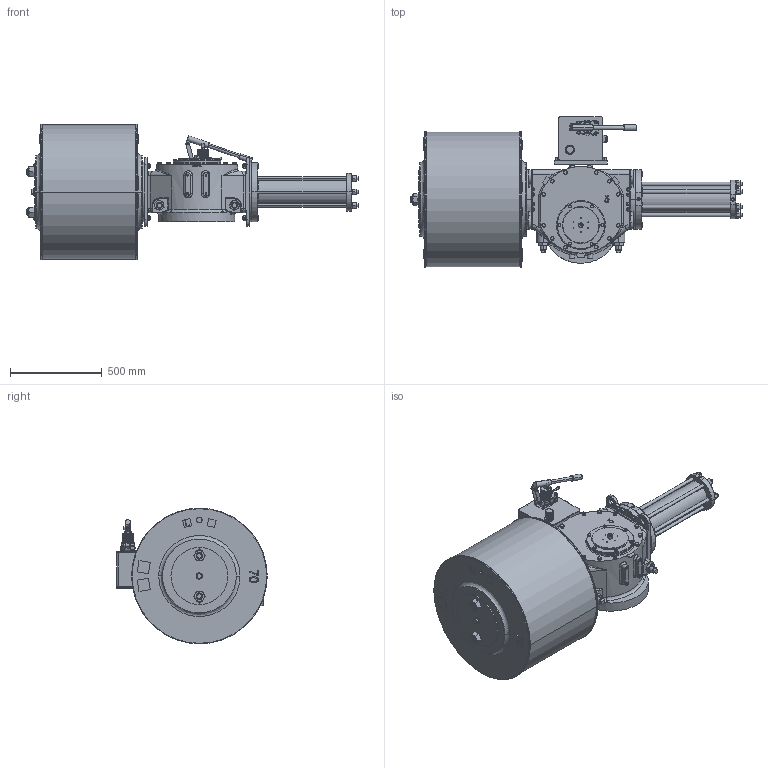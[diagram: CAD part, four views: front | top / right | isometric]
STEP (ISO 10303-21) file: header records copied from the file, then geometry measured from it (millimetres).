
FILE_DESCRIPTION (( 'STEP AP203' ), '1' );
FILE_NAME ('VTS5-700-MH.STEP', '2023-01-01T09:53:44', ( '' ), ( '' ), 'SwSTEP 2.0', 'SolidWorks 2020', '' );
FILE_SCHEMA (( 'CONFIG_CONTROL_DESIGN' ));
Length unit declared in the file: millimetre
Products named in the file (1): VTS5-700-MH
Bounding box: 1808 x 819.5 x 739 mm (x, y, z)
Volume: 309195056.8 mm3; surface area: 5407464.8 mm2
Topology: 79 solids, 82 shells, 3391 faces, 8336 edges, 5253 vertices
Faces by surface type: plane 1419, cylinder 1081, cone 790, bspline 101
Entity records: 113912 total; most frequent: CARTESIAN_POINT 34215, DIRECTION 16757, ORIENTED_EDGE 16516, EDGE_CURVE 8258, AXIS2_PLACEMENT_3D 6606, VERTEX_POINT 5253, EDGE_LOOP 3853, LINE 3545
